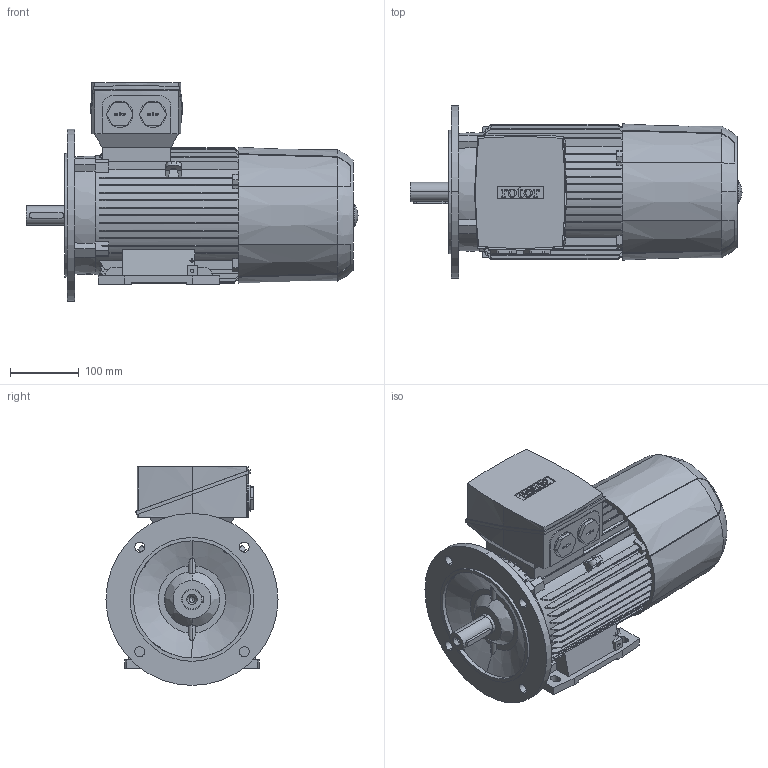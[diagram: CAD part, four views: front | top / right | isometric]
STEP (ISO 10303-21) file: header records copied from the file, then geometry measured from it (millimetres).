
FILE_DESCRIPTION (( 'STEP AP214' ), '1' );
FILE_NAME ('6RN100L04E45 IM2041.STEP', '2017-01-12T14:52:06', ( 'rbc_ict' ), ( 'Microsoft' ), 'SwSTEP 2.0', 'SolidWorks 2015', '' );
FILE_SCHEMA (( 'AUTOMOTIVE_DESIGN' ));
Length unit declared in the file: millimetre
Products named in the file (1): 6RN100L04E45 IM2041
Bounding box: 482.5 x 250 x 318 mm (x, y, z)
Volume: 13255767.2 mm3; surface area: 672509.7 mm2
Topology: 1 solids, 1 shells, 824 faces, 2353 edges, 1553 vertices
Faces by surface type: plane 489, cylinder 165, bspline 147, cone 23
Entity records: 39236 total; most frequent: CARTESIAN_POINT 10716, ORIENTED_EDGE 4698, DIRECTION 3640, EDGE_CURVE 2349, VERTEX_POINT 1553, LINE 1414, VECTOR 1414, AXIS2_PLACEMENT_3D 1113
